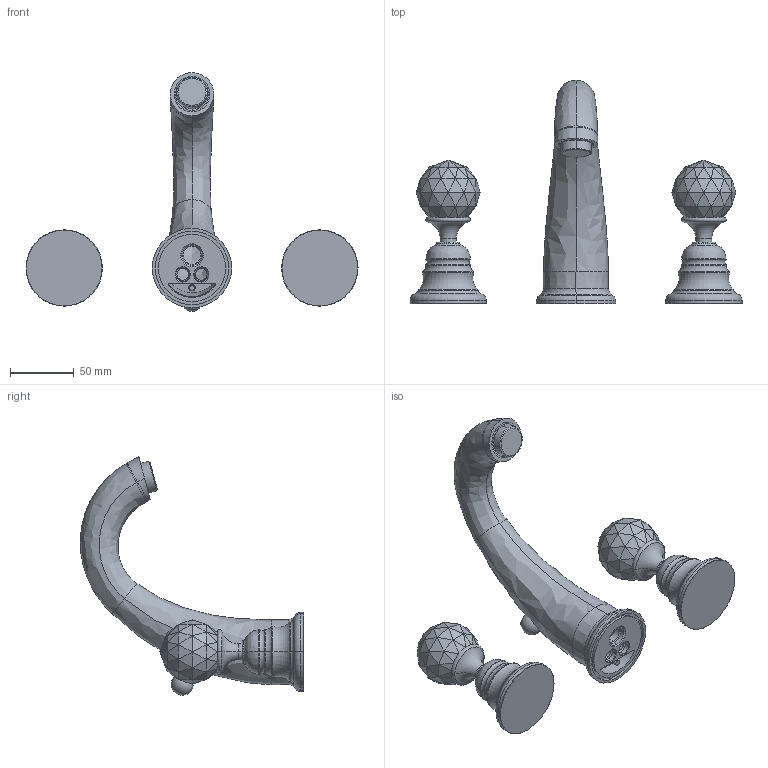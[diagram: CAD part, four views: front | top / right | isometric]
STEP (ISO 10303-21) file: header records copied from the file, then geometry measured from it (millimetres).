
FILE_DESCRIPTION((''),'2;1');
FILE_NAME('F5101C_FILE_3D','2013-07-16T',('ivanv'),(''),'PRO/ENGINEER BY PARAMETRIC TECHNOLOGY CORPORATION, 2012130','PRO/ENGINEER BY PARAMETRIC TECHNOLOGY CORPORATION, 2012130','');
FILE_SCHEMA(('CONFIG_CONTROL_DESIGN'));
Length unit declared in the file: millimetre
Products named in the file (1): F5101C_FILE_3D
Bounding box: 259.7 x 174.75 x 186.68 mm (x, y, z)
Volume: 364379.4 mm3; surface area: 112396.2 mm2
Topology: 6 solids, 6 shells, 457 faces, 854 edges, 417 vertices
Faces by surface type: plane 272, cylinder 55, torus 54, bspline 42, cone 32, sphere 2
Entity records: 16288 total; most frequent: CARTESIAN_POINT 7587, DIRECTION 1816, ORIENTED_EDGE 1704, EDGE_CURVE 852, AXIS2_PLACEMENT_3D 672, EDGE_LOOP 477, VECTOR 472, LINE 472
